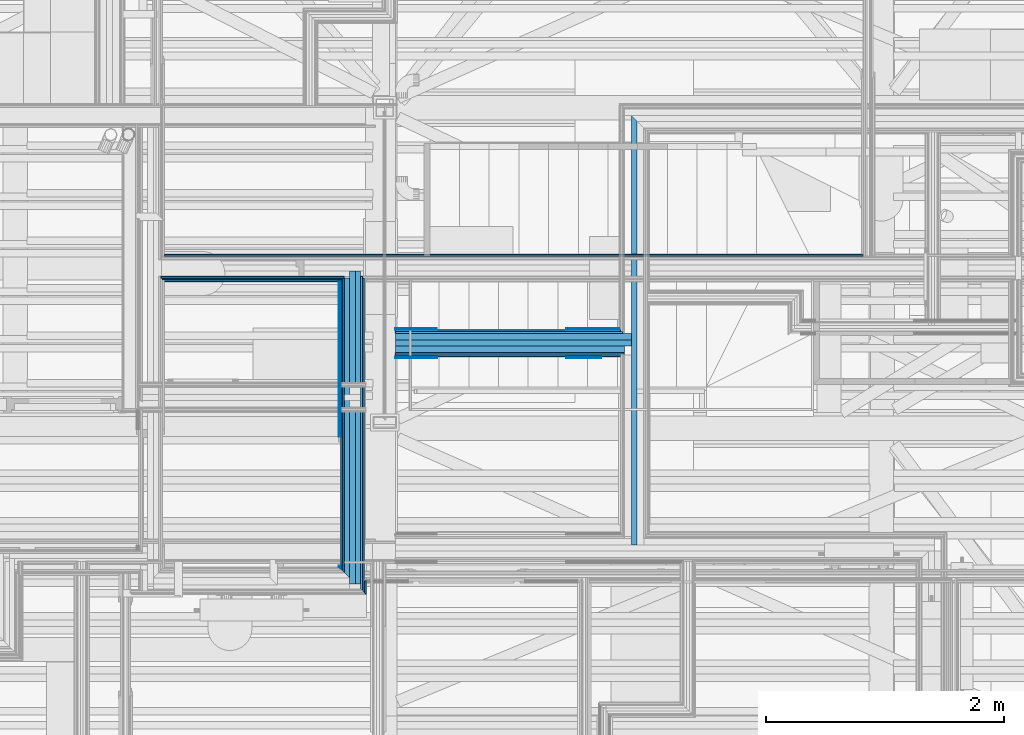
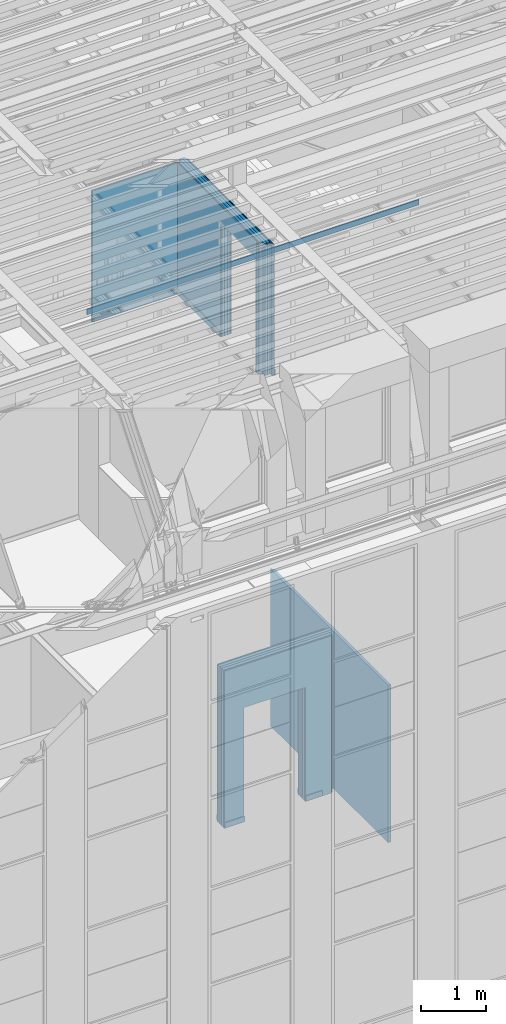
# One storey, part 52 of 183: 24 building element parts, 2 openings, 4 elements without a shape of their own.
"""IFC2X3 building model written with IfcOpenShell, lengths in metres."""

from ifc_helpers import new_model, entity, si_unit, converted_unit, derived_unit, money_unit, direction, frame, frame_2d, origin_with_axes, place, context, subcontext, project, spatial, polyline, rectangle, outline, extrude, material, type_object, element, aggregate, save


model = new_model("IFC2X3")

# Units and contexts
model_context = context("Model", 3, precision=1e-05, world=origin_with_axes(), true_north=direction((0.0, 1.0)))
body_context = subcontext(model_context, "Body", "Model", "MODEL_VIEW", scale=1.0)
ifc_project = project(units=[si_unit("LENGTHUNIT", "METRE"), si_unit("AREAUNIT", "SQUARE_METRE"), si_unit("VOLUMEUNIT", "CUBIC_METRE"), si_unit("ABSORBEDDOSEUNIT", "GRAY"), si_unit("AMOUNTOFSUBSTANCEUNIT", "MOLE"), si_unit("DOSEEQUIVALENTUNIT", "SIEVERT"), si_unit("ELECTRICCAPACITANCEUNIT", "FARAD"), si_unit("ELECTRICCHARGEUNIT", "COULOMB"), si_unit("ELECTRICCONDUCTANCEUNIT", "SIEMENS"), si_unit("ELECTRICCURRENTUNIT", "AMPERE"), si_unit("ELECTRICRESISTANCEUNIT", "OHM"), si_unit("ELECTRICVOLTAGEUNIT", "VOLT"), si_unit("ENERGYUNIT", "JOULE"), si_unit("FORCEUNIT", "NEWTON"), si_unit("FREQUENCYUNIT", "HERTZ"), si_unit("ILLUMINANCEUNIT", "LUX"), si_unit("INDUCTANCEUNIT", "HENRY"), si_unit("LUMINOUSFLUXUNIT", "LUMEN"), si_unit("LUMINOUSINTENSITYUNIT", "CANDELA"), si_unit("MAGNETICFLUXDENSITYUNIT", "TESLA"), si_unit("MAGNETICFLUXUNIT", "WEBER"), si_unit("MASSUNIT", "GRAM"), converted_unit("PLANEANGLEUNIT", "degree", entity("IfcReal", 0.0174532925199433), si_unit("PLANEANGLEUNIT", "RADIAN"), dimensions=[0, 0, 0, 0, 0, 0, 0]), si_unit("POWERUNIT", "WATT"), si_unit("PRESSUREUNIT", "PASCAL"), si_unit("RADIOACTIVITYUNIT", "BECQUEREL"), si_unit("SOLIDANGLEUNIT", "STERADIAN"), si_unit("THERMODYNAMICTEMPERATUREUNIT", "KELVIN"), si_unit("TIMEUNIT", "SECOND"), derived_unit("ACCELERATIONUNIT", [(si_unit("LENGTHUNIT", "METRE"), 1), (si_unit("TIMEUNIT", "SECOND"), -2)]), derived_unit("ANGULARVELOCITYUNIT", [(converted_unit("PLANEANGLEUNIT", "degree", entity("IfcReal", 0.0174532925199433), si_unit("PLANEANGLEUNIT", "RADIAN"), dimensions=[0, 0, 0, 0, 0, 0, 0]), 1), (si_unit("TIMEUNIT", "SECOND"), -1)]), derived_unit("CURVATUREUNIT", [(converted_unit("PLANEANGLEUNIT", "degree", entity("IfcReal", 0.0174532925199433), si_unit("PLANEANGLEUNIT", "RADIAN"), dimensions=[0, 0, 0, 0, 0, 0, 0]), 1), (si_unit("LENGTHUNIT", "METRE"), -1)]), derived_unit("DYNAMICVISCOSITYUNIT", [(si_unit("PRESSUREUNIT", "PASCAL"), 1), (si_unit("TIMEUNIT", "SECOND"), 1)]), derived_unit("HEATFLUXDENSITYUNIT", [(si_unit("POWERUNIT", "WATT"), 1), (si_unit("LENGTHUNIT", "METRE"), -2)]), derived_unit("HEATINGVALUEUNIT", [(si_unit("ENERGYUNIT", "JOULE"), 1), (si_unit("MASSUNIT", "GRAM"), -1)]), derived_unit("INTEGERCOUNTRATEUNIT", [(si_unit("TIMEUNIT", "SECOND"), -1)]), derived_unit("IONCONCENTRATIONUNIT", [(si_unit("MASSUNIT", "GRAM"), 1), (si_unit("VOLUMEUNIT", "CUBIC_METRE"), -1)]), derived_unit("ISOTHERMALMOISTURECAPACITYUNIT", [(si_unit("VOLUMEUNIT", "CUBIC_METRE"), 1), (si_unit("MASSUNIT", "GRAM"), -1)]), derived_unit("KINEMATICVISCOSITYUNIT", [(si_unit("AREAUNIT", "SQUARE_METRE"), 1), (si_unit("TIMEUNIT", "SECOND"), -1)]), derived_unit("LINEARFORCEUNIT", [(si_unit("FORCEUNIT", "NEWTON"), 1), (si_unit("LENGTHUNIT", "METRE"), -1)]), derived_unit("LINEARMOMENTUNIT", [(si_unit("FORCEUNIT", "NEWTON"), 1), (si_unit("LENGTHUNIT", "METRE"), -1)]), derived_unit("LINEARSTIFFNESSUNIT", [(si_unit("FORCEUNIT", "NEWTON"), 1), (si_unit("LENGTHUNIT", "METRE"), -1)]), derived_unit("LINEARVELOCITYUNIT", [(si_unit("LENGTHUNIT", "METRE"), 1), (si_unit("TIMEUNIT", "SECOND"), -1)]), derived_unit("LUMINOUSINTENSITYDISTRIBUTIONUNIT", [(si_unit("LUMINOUSINTENSITYUNIT", "CANDELA"), 1), (si_unit("LUMINOUSFLUXUNIT", "LUMEN"), -1)]), derived_unit("MASSDENSITYUNIT", [(si_unit("MASSUNIT", "GRAM"), 1), (si_unit("VOLUMEUNIT", "CUBIC_METRE"), -1)]), derived_unit("MASSFLOWRATEUNIT", [(si_unit("MASSUNIT", "GRAM"), 1), (si_unit("TIMEUNIT", "SECOND"), -1)]), derived_unit("MASSPERLENGTHUNIT", [(si_unit("MASSUNIT", "GRAM"), 1), (si_unit("LENGTHUNIT", "METRE"), -1)]), derived_unit("MODULUSOFELASTICITYUNIT", [(si_unit("FORCEUNIT", "NEWTON"), 1), (si_unit("AREAUNIT", "SQUARE_METRE"), -1)]), derived_unit("MODULUSOFLINEARSUBGRADEREACTIONUNIT", [(si_unit("FORCEUNIT", "NEWTON"), 1), (si_unit("LENGTHUNIT", "METRE"), -2)]), derived_unit("MODULUSOFROTATIONALSUBGRADEREACTIONUNIT", [(si_unit("FORCEUNIT", "NEWTON"), 1), (si_unit("LENGTHUNIT", "METRE"), 1)]), derived_unit("MODULUSOFSUBGRADEREACTIONUNIT", [(si_unit("FORCEUNIT", "NEWTON"), 1), (si_unit("VOLUMEUNIT", "CUBIC_METRE"), -1)]), derived_unit("MOISTUREDIFFUSIVITYUNIT", [(si_unit("VOLUMEUNIT", "CUBIC_METRE"), 1), (si_unit("TIMEUNIT", "SECOND"), -1)]), derived_unit("MOLECULARWEIGHTUNIT", [(si_unit("MASSUNIT", "GRAM"), 1), (si_unit("AMOUNTOFSUBSTANCEUNIT", "MOLE"), -1)]), derived_unit("PLANARFORCEUNIT", [(si_unit("FORCEUNIT", "NEWTON"), 1), (si_unit("LENGTHUNIT", "METRE"), -2)]), derived_unit("ROTATIONALFREQUENCYUNIT", [(si_unit("TIMEUNIT", "SECOND"), -1)]), derived_unit("ROTATIONALMASSUNIT", [(si_unit("MASSUNIT", "GRAM"), 1), (si_unit("LENGTHUNIT", "METRE"), 2)]), derived_unit("ROTATIONALSTIFFNESSUNIT", [(si_unit("FORCEUNIT", "NEWTON"), 1), (si_unit("LENGTHUNIT", "METRE"), 1), (converted_unit("PLANEANGLEUNIT", "degree", entity("IfcReal", 0.0174532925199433), si_unit("PLANEANGLEUNIT", "RADIAN"), dimensions=[0, 0, 0, 0, 0, 0, 0]), -1)]), derived_unit("SECTIONAREAINTEGRALUNIT", [(si_unit("LENGTHUNIT", "METRE"), 5)]), derived_unit("SECTIONMODULUSUNIT", [(si_unit("LENGTHUNIT", "METRE"), 3)]), derived_unit("SHEARMODULUSUNIT", [(si_unit("FORCEUNIT", "NEWTON"), 1), (si_unit("AREAUNIT", "SQUARE_METRE"), -1)]), derived_unit("SOUNDPOWERUNIT", [(si_unit("ENERGYUNIT", "JOULE"), 1), (si_unit("TIMEUNIT", "SECOND"), -1)]), derived_unit("SPECIFICHEATCAPACITYUNIT", [(si_unit("FORCEUNIT", "NEWTON"), 1), (si_unit("MASSUNIT", "GRAM"), -1), (si_unit("THERMODYNAMICTEMPERATUREUNIT", "KELVIN"), -1)]), derived_unit("TEMPERATUREGRADIENTUNIT", [(si_unit("THERMODYNAMICTEMPERATUREUNIT", "KELVIN"), 1), (si_unit("LENGTHUNIT", "METRE"), -1)]), derived_unit("THERMALADMITTANCEUNIT", [(si_unit("POWERUNIT", "WATT"), 1), (si_unit("AREAUNIT", "SQUARE_METRE"), -1), (si_unit("THERMODYNAMICTEMPERATUREUNIT", "KELVIN"), -1)]), derived_unit("THERMALCONDUCTANCEUNIT", [(si_unit("POWERUNIT", "WATT"), 1), (si_unit("LENGTHUNIT", "METRE"), -1), (si_unit("THERMODYNAMICTEMPERATUREUNIT", "KELVIN"), -1)]), derived_unit("THERMALEXPANSIONCOEFFICIENTUNIT", [(si_unit("THERMODYNAMICTEMPERATUREUNIT", "KELVIN"), -1)]), derived_unit("THERMALRESISTANCEUNIT", [(si_unit("AREAUNIT", "SQUARE_METRE"), 1), (si_unit("POWERUNIT", "WATT"), -1)]), derived_unit("THERMALTRANSMITTANCEUNIT", [(si_unit("POWERUNIT", "WATT"), 1), (si_unit("AREAUNIT", "SQUARE_METRE"), -1), (si_unit("THERMODYNAMICTEMPERATUREUNIT", "KELVIN"), -1)]), derived_unit("TORQUEUNIT", [(si_unit("FORCEUNIT", "NEWTON"), 1), (si_unit("LENGTHUNIT", "METRE"), 1)]), derived_unit("VAPORPERMEABILITYUNIT", [(si_unit("MASSUNIT", "GRAM"), 1), (si_unit("TIMEUNIT", "SECOND"), -1)]), derived_unit("VOLUMETRICFLOWRATEUNIT", [(si_unit("VOLUMEUNIT", "CUBIC_METRE"), 1), (si_unit("TIMEUNIT", "SECOND"), -1)]), derived_unit("WARPINGCONSTANTUNIT", [(si_unit("LENGTHUNIT", "METRE"), 6)]), derived_unit("WARPINGMOMENTUNIT", [(si_unit("FORCEUNIT", "NEWTON"), 1), (si_unit("LENGTHUNIT", "METRE"), 2)]), money_unit("GBP")], contexts=[model_context])

# Site, building, storey
site_placement = place(None, origin_with_axes())
site = spatial("IfcSite", under=ifc_project, at=site_placement, Name="Site", CompositionType="ELEMENT")
building_placement = place(site_placement, origin_with_axes())
building = spatial("IfcBuilding", under=site, at=building_placement, Name="Building01", CompositionType="ELEMENT")
storey_placement = place(building_placement, frame((0.0, 0.0, 5.15), z_axis=(0.0, 0.0, 1.0), x_axis=(1.0, 0.0, 0.0)))
storey = spatial("IfcBuildingStorey", under=building, at=storey_placement, Name="1F", CompositionType="ELEMENT", Elevation=5.15)

# Wall, building element part
wall_type_1 = type_object("IfcWallType", Name="SHE_A-Walls_Type01c_Partywall_225mm_twin_tall", PredefinedType="NOTDEFINED")
wall_1_placement = place(storey_placement, frame((19.985661, 8.732, 0.0), z_axis=(0.0, 0.0, 1.0), x_axis=(0.0, -1.0, 0.0)))
wall_1 = element("IfcWall", 1, at=wall_1_placement, inside=storey, type_object=wall_type_1, Name="1C", ObjectType="SHE_A-Walls_Type01c_Partywall_225mm_twin_tall")
ifc_material_1 = material(Name="A_BSUK_Insulation")
building_element_part_1_placement = place(wall_1_placement, origin_with_axes())
building_element_part_1 = element("IfcBuildingElementPart", 2, at=building_element_part_1_placement, material=ifc_material_1, Name="10", context=body_context, shape_type="SweptSolid", body=[
    extrude(outline(polyline([(3.614, 0.05), (0.05, 0.05), (0.0, 0.0), (3.614, 0.0), (3.614, 0.05)])), origin_with_axes(), (0.0, 0.0, 1.0), 2.95),
])
aggregate(wall_1, [building_element_part_1])

# Wall, opening, building element parts
wall_2_placement = place(storey_placement, frame((18.0, 6.793, 0.0), z_axis=(0.0, 0.0, 1.0), x_axis=(1.0, 0.0, 0.0)))
wall_2 = element("IfcWall", 3, at=wall_2_placement, inside=storey, type_object=wall_type_1, Name="1C", ObjectType="SHE_A-Walls_Type01c_Partywall_225mm_twin_tall")
opening_1_placement = place(wall_2_placement, frame((0.353, -0.103, -0.03), z_axis=(0.0, 0.0, 1.0), x_axis=(1.0, 0.0, 0.0)))
element("IfcOpeningElement", 4, at=opening_1_placement, cuts=wall_2, Name="Opening", ObjectType="Opening", context=body_context, shape_type="SweptSolid", body=[
    extrude(rectangle(XDim=2.142, YDim=1.081, at=frame_2d((-0.5405, 1.071), x_axis=(0.0, -1.0))), frame((0.0, 0.0, 0.0), z_axis=(0.0, 1.0, 0.0), x_axis=(-1.0, 0.0, 0.0)), (0.0, 0.0, 1.0), 0.255),
    extrude(rectangle(XDim=1.084, YDim=2.172, at=frame_2d((-0.539, 1.086), x_axis=(1.0, 0.0))), frame((0.0, 0.015, 0.0), z_axis=(0.0, 1.0, 0.0), x_axis=(-1.0, 0.0, 0.0)), (0.0, 0.0, 1.0), 0.015),
    extrude(rectangle(XDim=2.142, YDim=1.084, at=frame_2d((-0.542, 1.071), x_axis=(0.0, -1.0))), frame((0.0, 0.0, 0.0), z_axis=(0.0, 1.0, 0.0), x_axis=(-1.0, 0.0, 0.0)), (0.0, 0.0, 1.0), 0.015),
    extrude(outline(polyline([(0.0, 0.03), (0.003, 0.03), (0.003, 2.172), (-1.081, 2.172), (-1.081, 2.142), (-1.084, 2.142), (-1.084, 0.0), (0.0, 0.0), (0.0, 0.03)])), frame((0.0, 0.03, 0.0), z_axis=(0.0, 1.0, 0.0), x_axis=(-1.0, 0.0, 0.0)), (0.0, 0.0, 1.0), 0.015),
    extrude(outline(polyline([(0.0, 0.03), (0.003, 0.03), (0.003, 2.172), (-1.081, 2.172), (-1.081, 2.142), (-1.084, 2.142), (-1.084, 0.0), (0.0, 0.0), (0.0, 0.03)])), frame((0.0, 0.045, 0.0), z_axis=(0.0, 1.0, 0.0), x_axis=(-1.0, 0.0, 0.0)), (0.0, 0.0, 1.0), 0.058),
    extrude(outline(polyline([(0.0, 0.03), (0.003, 0.03), (0.003, 2.172), (-1.081, 2.172), (-1.081, 2.142), (-1.084, 2.142), (-1.084, 0.0), (0.0, 0.0), (0.0, 0.03)])), frame((0.0, 0.103, 0.0), z_axis=(0.0, 1.0, 0.0), x_axis=(-1.0, 0.0, 0.0)), (0.0, 0.0, 1.0), 0.05),
    extrude(outline(polyline([(0.0, 0.03), (0.003, 0.03), (0.003, 2.172), (-1.081, 2.172), (-1.081, 2.142), (-1.084, 2.142), (-1.084, 0.0), (0.0, 0.0), (0.0, 0.03)])), frame((0.0, 0.153, 0.0), z_axis=(0.0, 1.0, 0.0), x_axis=(-1.0, 0.0, 0.0)), (0.0, 0.0, 1.0), 0.057),
    extrude(outline(polyline([(0.0, 0.03), (0.003, 0.03), (0.003, 2.172), (-1.081, 2.172), (-1.081, 2.142), (-1.084, 2.142), (-1.084, 0.0), (0.0, 0.0), (0.0, 0.03)])), frame((0.0, 0.21, 0.0), z_axis=(0.0, 1.0, 0.0), x_axis=(-1.0, 0.0, 0.0)), (0.0, 0.0, 1.0), 0.015),
    extrude(rectangle(XDim=1.084, YDim=2.172, at=frame_2d((-0.539, 1.086), x_axis=(1.0, 0.0))), frame((0.0, 0.225, 0.0), z_axis=(0.0, 1.0, 0.0), x_axis=(-1.0, 0.0, 0.0)), (0.0, 0.0, 1.0), 0.015),
    extrude(outline(polyline([(0.0, 0.03), (0.003, 0.03), (0.003, 2.172), (-1.081, 2.172), (-1.081, 2.142), (-1.084, 2.142), (-1.084, 0.0), (0.0, 0.0), (0.0, 0.03)])), frame((0.0, 0.24, 0.0), z_axis=(0.0, 1.0, 0.0), x_axis=(-1.0, 0.0, 0.0)), (0.0, 0.0, 1.0), 0.015),
])
ifc_material_2 = material(Name="A_BSUK_Walls_Timber")
placement_1 = place(wall_2_placement, origin_with_axes())
building_element_part_2 = element("IfcBuildingElementPart", 5, at=placement_1, material=ifc_material_2, Name="1", context=body_context, shape_type="SweptSolid", body=[
    extrude(rectangle(XDim=1.730969, YDim=0.015, at=frame_2d((0.865484, -0.0955), x_axis=(-1.0, 0.0))), frame((0.0, 0.0, 0.015), z_axis=(0.0, 0.0, 1.0), x_axis=(1.0, 0.0, 0.0)), (0.0, 0.0, 1.0), 0.1),
])
ifc_material_3 = material(Name="A_BSUK_WallInternal_Finishes_Plasterboard")
building_element_part_3 = element("IfcBuildingElementPart", 6, at=placement_1, material=ifc_material_3, Name="2", context=body_context, shape_type="SweptSolid", body=[
    extrude(rectangle(XDim=1.897661, YDim=0.015, at=frame_2d((0.948831, -0.0805), x_axis=(-1.0, 0.0))), origin_with_axes(), (0.0, 0.0, 1.0), 2.95),
])
building_element_part_4 = element("IfcBuildingElementPart", 7, at=placement_1, material=ifc_material_3, Name="3", context=body_context, shape_type="SweptSolid", body=[
    extrude(rectangle(XDim=1.927661, YDim=0.015, at=frame_2d((0.963831, -0.0655), x_axis=(-1.0, 0.0))), origin_with_axes(), (0.0, 0.0, 1.0), 2.95),
])
ifc_material_4 = material(Name="Air Cavity")
building_element_part_5 = element("IfcBuildingElementPart", 8, at=placement_1, material=ifc_material_4, Name="4", context=body_context, shape_type="SweptSolid", body=[
    extrude(rectangle(XDim=1.927661, YDim=0.058, at=frame_2d((0.963831, -0.029), x_axis=(-1.0, 0.0))), origin_with_axes(), (0.0, 0.0, 1.0), 2.95),
])
building_element_part_6 = element("IfcBuildingElementPart", 9, at=placement_1, material=ifc_material_1, Name="5", context=body_context, shape_type="SweptSolid", body=[
    extrude(rectangle(XDim=1.985661, YDim=0.05, at=frame_2d((0.992831, 0.025), x_axis=(-1.0, 0.0))), origin_with_axes(), (0.0, 0.0, 1.0), 2.95),
])
building_element_part_7 = element("IfcBuildingElementPart", 10, at=placement_1, material=ifc_material_4, Name="6", context=body_context, shape_type="SweptSolid", body=[
    extrude(rectangle(XDim=1.985661, YDim=0.057, at=frame_2d((0.992831, 0.0785), x_axis=(-1.0, 0.0))), origin_with_axes(), (0.0, 0.0, 1.0), 2.95),
])
building_element_part_8 = element("IfcBuildingElementPart", 11, at=placement_1, material=ifc_material_3, Name="7", context=body_context, shape_type="SweptSolid", body=[
    extrude(rectangle(XDim=1.912661, YDim=0.015, at=frame_2d((0.956331, 0.1145), x_axis=(-1.0, 0.0))), origin_with_axes(), (0.0, 0.0, 1.0), 2.95),
])
building_element_part_9 = element("IfcBuildingElementPart", 12, at=placement_1, material=ifc_material_3, Name="8", context=body_context, shape_type="SweptSolid", body=[
    extrude(rectangle(XDim=1.897661, YDim=0.015, at=frame_2d((0.948831, 0.1295), x_axis=(-1.0, 0.0))), origin_with_axes(), (0.0, 0.0, 1.0), 2.95),
])
building_element_part_10 = element("IfcBuildingElementPart", 13, at=placement_1, material=ifc_material_2, Name="9", context=body_context, shape_type="SweptSolid", body=[
    extrude(rectangle(XDim=1.882661, YDim=0.015, at=frame_2d((0.941331, 0.1445), x_axis=(-1.0, 0.0))), frame((0.0, 0.0, 0.015), z_axis=(0.0, 0.0, 1.0), x_axis=(1.0, 0.0, 0.0)), (0.0, 0.0, 1.0), 0.1),
])
aggregate(wall_2, [building_element_part_2, building_element_part_3, building_element_part_4, building_element_part_5, building_element_part_6, building_element_part_7, building_element_part_8, building_element_part_9, building_element_part_10])

wall_type_2 = type_object("IfcWallType", Name="SHE_A-Walls_Type01d_Partywall_200mm_twin", PredefinedType="NOTDEFINED")
wall_3_placement = place(storey_placement, frame((17.61344, 7.424915, 9.78), z_axis=(0.0, 0.0, 1.0), x_axis=(0.0, -1.0, 0.0)))
wall_3 = element("IfcWall", 14, at=wall_3_placement, inside=storey, type_object=wall_type_2, Name="1D", ObjectType="SHE_A-Walls_Type01d_Partywall_200mm_twin")
opening_2_placement = place(wall_3_placement, frame((1.396915, -0.09, 0.0), z_axis=(0.0, 0.0, 1.0), x_axis=(1.0, 0.0, 0.0)))
element("IfcOpeningElement", 15, at=opening_2_placement, cuts=wall_3, Name="Opening", ObjectType="Recess", context=body_context, shape_type="SweptSolid", body=[
    extrude(rectangle(XDim=1.084, YDim=2.142, at=frame_2d((-0.542, 1.071), x_axis=(1.0, 0.0))), frame((0.0, 0.0, 0.0), z_axis=(0.0, 1.0, 0.0), x_axis=(-1.0, 0.0, 0.0)), (0.0, 0.0, 1.0), 0.215),
])
placement_2 = place(wall_3_placement, origin_with_axes())
building_element_part_11 = element("IfcBuildingElementPart", 16, at=placement_2, material=ifc_material_2, Name="1", context=body_context, shape_type="SweptSolid", body=[
    extrude(outline(polyline([(2.507915, -0.075), (0.09, -0.075), (0.09, -0.09), (2.492915, -0.09), (2.507915, -0.075)])), frame((0.0, 0.0, 0.015), z_axis=(0.0, 0.0, 1.0), x_axis=(1.0, 0.0, 0.0)), (0.0, 0.0, 1.0), 0.1),
])
building_element_part_12 = element("IfcBuildingElementPart", 17, at=placement_2, material=ifc_material_3, Name="2", context=body_context, shape_type="SweptSolid", body=[
    extrude(outline(polyline([(2.522915, -0.06), (0.075, -0.06), (0.075, -0.075), (2.507915, -0.075), (2.522915, -0.06)])), origin_with_axes(), (0.0, 0.0, 1.0), 2.468),
])
building_element_part_13 = element("IfcBuildingElementPart", 18, at=placement_2, material=ifc_material_3, Name="3", context=body_context, shape_type="SweptSolid", body=[
    extrude(outline(polyline([(2.537915, -0.045), (0.06, -0.045), (0.06, -0.06), (2.522915, -0.06), (2.537915, -0.045)])), origin_with_axes(), (0.0, 0.0, 1.0), 2.468),
])
building_element_part_14 = element("IfcBuildingElementPart", 19, at=placement_2, material=ifc_material_4, Name="4", context=body_context, shape_type="SweptSolid", body=[
    extrude(outline(polyline([(2.582915, 0.0), (0.06, 0.0), (0.06, -0.045), (2.537915, -0.045), (2.582915, 0.0)])), origin_with_axes(), (0.0, 0.0, 1.0), 2.468),
])
building_element_part_15 = element("IfcBuildingElementPart", 20, at=placement_2, material=ifc_material_1, Name="5", context=body_context, shape_type="SweptSolid", body=[
    extrude(rectangle(XDim=2.632915, YDim=0.05, at=frame_2d((1.316458, 0.025), x_axis=(-1.0, 0.0))), origin_with_axes(), (0.0, 0.0, 1.0), 2.468),
])
building_element_part_16 = element("IfcBuildingElementPart", 21, at=placement_2, material=ifc_material_4, Name="6", context=body_context, shape_type="SweptSolid", body=[
    extrude(rectangle(XDim=2.632915, YDim=0.045, at=frame_2d((1.316458, 0.0725), x_axis=(-1.0, 0.0))), origin_with_axes(), (0.0, 0.0, 1.0), 2.468),
])
building_element_part_17 = element("IfcBuildingElementPart", 22, at=placement_2, material=ifc_material_3, Name="7", context=body_context, shape_type="SweptSolid", body=[
    extrude(outline(polyline([(2.692915, 0.11), (0.045, 0.11), (0.045, 0.095), (2.677915, 0.095), (2.692915, 0.11)])), origin_with_axes(), (0.0, 0.0, 1.0), 2.468),
])
building_element_part_18 = element("IfcBuildingElementPart", 23, at=placement_2, material=ifc_material_3, Name="8", context=body_context, shape_type="SweptSolid", body=[
    extrude(outline(polyline([(2.707915, 0.125), (0.06, 0.125), (0.06, 0.11), (2.692915, 0.11), (2.707915, 0.125)])), origin_with_axes(), (0.0, 0.0, 1.0), 2.468),
])
building_element_part_19 = element("IfcBuildingElementPart", 24, at=placement_2, material=ifc_material_2, Name="9", context=body_context, shape_type="SweptSolid", body=[
    extrude(outline(polyline([(2.722915, 0.14), (2.607915, 0.14), (2.607915, 0.125), (2.707915, 0.125), (2.722915, 0.14)])), frame((0.0, 0.0, 0.015), z_axis=(0.0, 0.0, 1.0), x_axis=(1.0, 0.0, 0.0)), (0.0, 0.0, 1.0), 0.1),
])
aggregate(wall_3, [building_element_part_11, building_element_part_12, building_element_part_13, building_element_part_14, building_element_part_15, building_element_part_16, building_element_part_17, building_element_part_18, building_element_part_19])

# Wall, building element parts
wall_4_placement = place(storey_placement, frame((26.380061, 7.474915, 9.78), z_axis=(0.0, 0.0, 1.0), x_axis=(-1.0, 0.0, 0.0)))
wall_4 = element("IfcWall", 25, at=wall_4_placement, inside=storey, type_object=wall_type_2, Name="1D", ObjectType="SHE_A-Walls_Type01d_Partywall_200mm_twin")
placement_3 = place(wall_4_placement, origin_with_axes())
building_element_part_20 = element("IfcBuildingElementPart", 26, at=placement_3, material=ifc_material_2, Name="3", context=body_context, shape_type="SweptSolid", body=[
    extrude(rectangle(XDim=5.886536, YDim=0.015, at=frame_2d((7.383353, -0.0825), x_axis=(-1.0, 0.0))), frame((0.0, 0.0, 0.015), z_axis=(0.0, 0.0, 1.0), x_axis=(1.0, 0.0, 0.0)), (0.0, 0.0, 1.0), 0.1),
])
building_element_part_21 = element("IfcBuildingElementPart", 27, at=placement_3, material=ifc_material_2, Name="4", context=body_context, shape_type="SweptSolid", body=[
    extrude(rectangle(XDim=5.886536, YDim=0.015, at=frame_2d((7.383353, -0.0825), x_axis=(-1.0, 0.0))), frame((0.0, 0.0, 0.015), z_axis=(0.0, 0.0, 1.0), x_axis=(1.0, 0.0, 0.0)), (0.0, 0.0, 1.0), 0.1),
])
building_element_part_22 = element("IfcBuildingElementPart", 28, at=placement_3, material=ifc_material_3, Name="11", context=body_context, shape_type="SweptSolid", body=[
    extrude(rectangle(XDim=1.545, YDim=0.015, at=frame_2d((9.584121, 0.1025), x_axis=(-1.0, 0.0))), origin_with_axes(), (0.0, 0.0, 1.0), 2.468),
])
building_element_part_23 = element("IfcBuildingElementPart", 29, at=placement_3, material=ifc_material_3, Name="13", context=body_context, shape_type="SweptSolid", body=[
    extrude(rectangle(XDim=1.515, YDim=0.015, at=frame_2d((9.584121, 0.1175), x_axis=(-1.0, 0.0))), origin_with_axes(), (0.0, 0.0, 1.0), 2.468),
])
building_element_part_24 = element("IfcBuildingElementPart", 30, at=placement_3, material=ifc_material_2, Name="15", context=body_context, shape_type="SweptSolid", body=[
    extrude(outline(polyline([(10.326621, 0.14), (8.841621, 0.14), (8.841621, 0.125), (10.341621, 0.125), (10.326621, 0.14)])), frame((0.0, 0.0, 0.015), z_axis=(0.0, 0.0, 1.0), x_axis=(1.0, 0.0, 0.0)), (0.0, 0.0, 1.0), 0.1),
])
aggregate(wall_4, [building_element_part_20, building_element_part_21, building_element_part_22, building_element_part_23, building_element_part_24])

save(model, "model.ifc")
